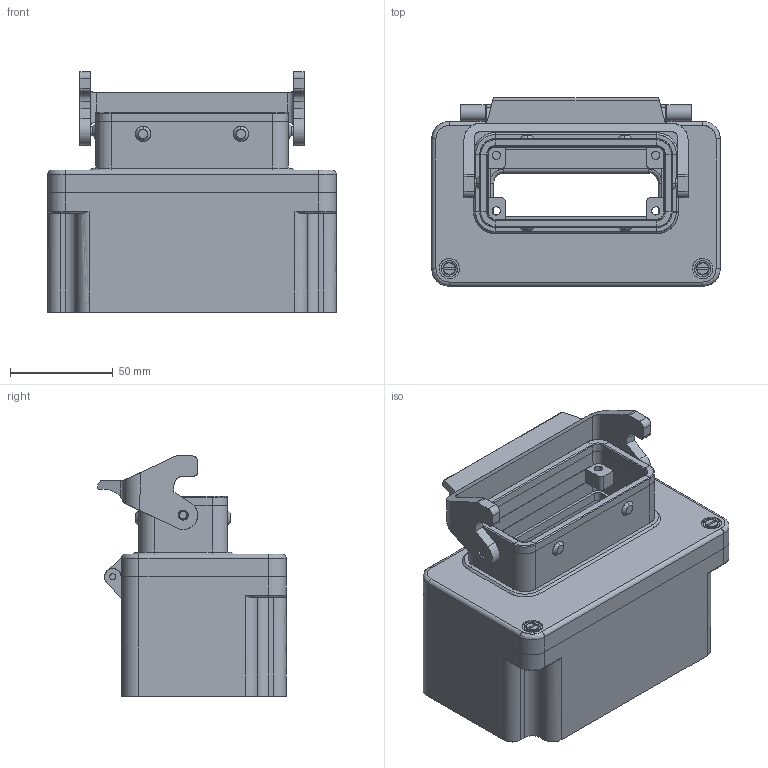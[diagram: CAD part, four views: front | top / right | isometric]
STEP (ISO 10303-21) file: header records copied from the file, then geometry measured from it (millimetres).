
FILE_DESCRIPTION( ( 'STEP AP214' ), '1' );
FILE_NAME( 'C:/Dokumente und Einstellungen/Administrator/Desktop/47 Kabelboxen/G1/7/gr_1_16e-b.stp', '2006-09-10T10:05:57', ( ' ' ), ( ' ' ), 'XStep 1.0', 'VISICAD', ' ' );
FILE_SCHEMA( ( 'automotive_design' ) );
Length unit declared in the file: millimetre
Products named in the file (856): 1; 2; 3; 4; 5; 6; 7; 8; 9; 10; 11; 12; 13; 14; 15; 16; 17; 18; 19; 20; 21; 22; 23; 24; 25; 26; 27; 28; 29; 30; 31; 32; 33; 34; 35; 36; 37; 38; 39; 40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
Bounding box: 140 x 91.48 x 116.7 mm (x, y, z)
Surface area: 126629.8 mm2 (no closed solid volume)
Topology: 0 solids, 856 shells, 856 faces, 4328 edges, 4328 vertices
Faces by surface type: plane 388, bspline 248, revolution 198, cylinder 22
Entity records: 96127 total; most frequent: CARTESIAN_POINT 44943, DIRECTION 6089, ORIENTED_EDGE 4328, EDGE_CURVE 4328, VERTEX_POINT 4328, LINE 2377, VECTOR 2377, AXIS2_PLACEMENT_3D 1757
